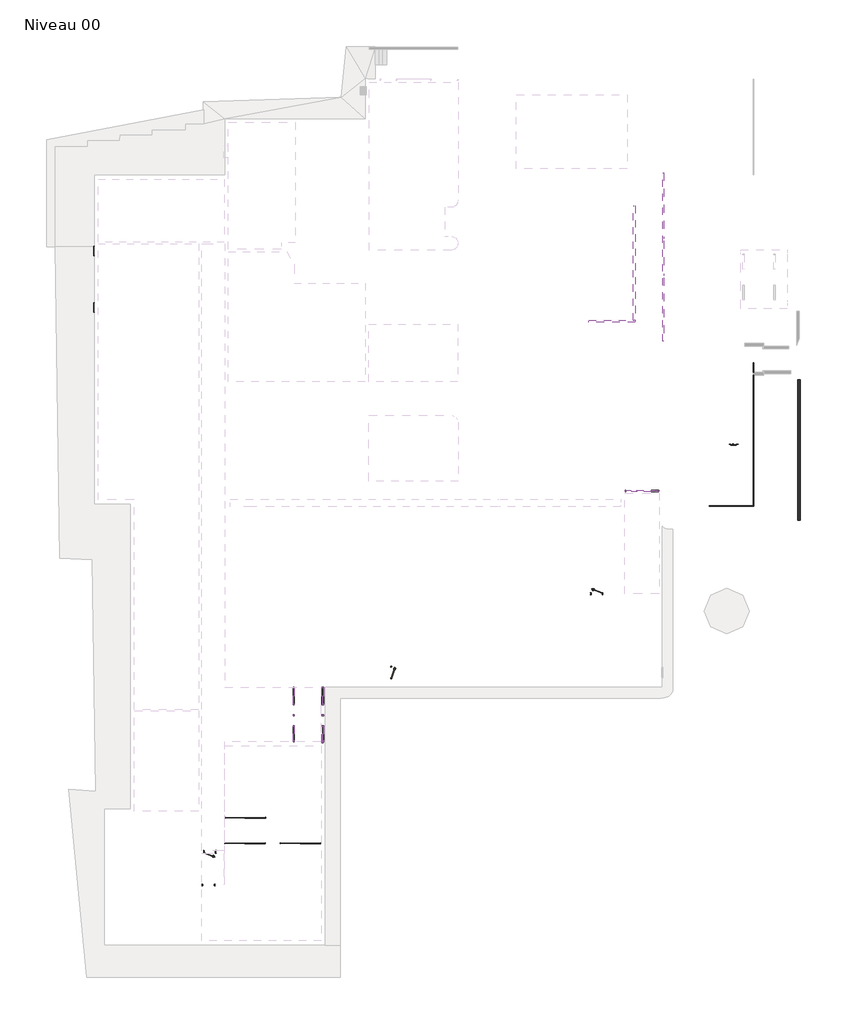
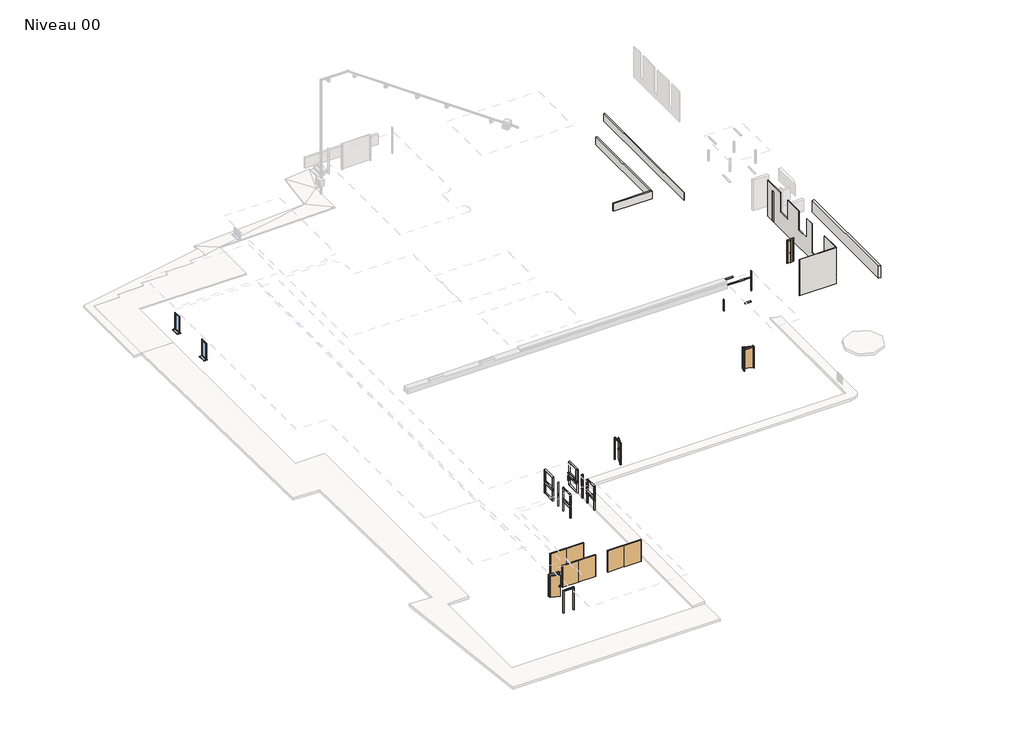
# One storey, part 1 of 2: 83 members, 8 doors, 6 walls, 2 windows.
"""IFC4 building model written with IfcOpenShell, lengths in millimetres."""

from ifc_helpers import new_model, si_unit, origin, place, context, project, spatial, faceted_brep, transform, mapped, element, save
from components import door_626e1f12, door_4948b6b3, door_c699e053, door_bd61b35e, door_848fd270, ouverture_en_rectangle_ouverture_90x210_ffd93667, meneau_rectangulaire_50_x_100mm_a95d30d4, meneau_rectangulaire_50_x_100mm_7e632c28, meneau_rectangulaire_50_x_100mm_c5873f87, meneau_rectangulaire_50_x_100mm_fcca4d56, meneau_rectangulaire_50_x_100mm_b23c1ce9, meneau_rectangulaire_50_x_100mm_d09d4065, meneau_rectangulaire_50_x_100mm_688607ec, meneau_rectangulaire_50_x_100mm_7ca75b0d, meneau_rectangulaire_50_x_100mm_3de90236, meneau_rectangulaire_50_x_100mm_5e38c685, meneau_rectangulaire_50_x_100mm_98a642bf, meneau_rectangulaire_50_x_100mm_ed043693, meneau_rectangulaire_50_x_100mm_b4c3f8e3, meneau_rectangulaire_50_x_100mm_ec18373a, meneau_rectangulaire_50_x_100mm_6acf6161, meneau_rectangulaire_50_x_100mm_27001ddf, meneau_rectangulaire_50_x_100mm_70707a87, meneau_rectangulaire_50_x_100mm_be9d7eec, meneau_rectangulaire_50_x_100mm_b5018dc8, meneau_rectangulaire_50_x_100mm_44c2bade, meneau_rectangulaire_50_x_100mm_59bd0e1b, meneau_rectangulaire_50_x_100mm_1360d4d5, meneau_rectangulaire_50_x_100mm_62168698, meneau_rectangulaire_50_x_100mm_d45ac7b1, meneau_rectangulaire_50_x_100mm_1a8e3824, meneau_rectangulaire_50_x_100mm_f6ebeedd, meneau_rectangulaire_50_x_100mm_f0ec9ac6, meneau_rectangulaire_50_x_100mm_34e0b34b, window_70_x_160cm_368b7dc1

model = new_model("IFC4")

# Units and contexts
model_context = context("Model", 3, world=origin())
ifc_project = project(units=[si_unit("LENGTHUNIT", "METRE", prefix="MILLI")], contexts=[model_context])

# Site, building, storey
site = spatial("IfcSite", under=ifc_project)
building = spatial("IfcBuilding", under=site)
storey = spatial("IfcBuildingStorey", under=building, Name="Niveau 00", Elevation=0.0)

# Doors
placement = place(None, origin())
door_shape = door_626e1f12(model_context)
element("IfcDoor", 1, ObjectType="Placard pliante : Placard pliante 42", at=placement, inside=storey, context=model_context, shape_type="MappedRepresentation", body=[
    mapped(door_shape, transform((1578.4345602, -16463.8474044, 0.0), x_axis=(-1.0, 0.0, 0.0), y_axis=(0.0, -1.0, 0.0), z_axis=(0.0, 0.0, 1.0))),
])
door_2_shape = door_4948b6b3(model_context)
element("IfcDoor", 2, ObjectType="@_Int. Simple : @_PP (0.83m x 2.04m)", at=placement, inside=storey, context=model_context, shape_type="MappedRepresentation", body=[
    mapped(door_2_shape, transform((-37468.9891749, -46774.4568753, 0.0), x_axis=(-1.0, 0.0, 0.0), y_axis=(0.0, -1.0, 0.0), z_axis=(0.0, 0.0, 1.0))),
])
door_3_shape = door_c699e053(model_context)
element("IfcDoor", 3, ObjectType="@_Int. Simple : @_PP (0.83m x 2.04m)", at=placement, inside=storey, context=model_context, shape_type="MappedRepresentation", body=[
    mapped(door_3_shape, transform((-8581.1906223, -27544.0543067, 0.0), x_axis=(1.0, 0.0, 0.0), y_axis=(0.0, 1.0, 0.0), z_axis=(0.0, 0.0, 1.0))),
])
door_4_shape = door_bd61b35e(model_context)
element("IfcDoor", 4, ObjectType="@_Int. Simple : @_PP (0.83m x 2.04m)", at=placement, inside=storey, context=model_context, shape_type="MappedRepresentation", body=[
    mapped(door_4_shape, transform((-23928.9891725, -33449.054307, 0.0), x_axis=(0.0, -1.0, 0.0), y_axis=(1.0, 0.0, 0.0), z_axis=(0.0, 0.0, 1.0))),
])
door_5_shape = door_848fd270(model_context)
element("IfcDoor", 5, ObjectType="PRT-plaard coulissant : PRT_COL_207*100", at=placement, inside=storey, context=model_context, shape_type="MappedRepresentation", body=[
    mapped(door_5_shape, transform((-34833.9891748, -44230.2078894, 0.0), x_axis=(-1.0, 0.0, 0.0), y_axis=(0.0, -1.0, 0.0), z_axis=(0.0, 0.0, 1.0))),
])
element("IfcDoor", 6, ObjectType="PRT-plaard coulissant : PRT_COL_207*100", at=placement, inside=storey, context=model_context, shape_type="MappedRepresentation", body=[
    mapped(door_5_shape, transform((-34844.5346136, -46130.9676203, 0.0), x_axis=(-1.0, 0.0, 0.0), y_axis=(0.0, -1.0, 0.0), z_axis=(0.0, 0.0, 1.0))),
])
element("IfcDoor", 7, ObjectType="PRT-plaard coulissant : PRT_COL_207*100", at=placement, inside=storey, context=model_context, shape_type="MappedRepresentation", body=[
    mapped(door_5_shape, transform((-30712.6475976, -46130.9676203, 0.0), x_axis=(-1.0, 0.0, 0.0), y_axis=(0.0, -1.0, 0.0), z_axis=(0.0, 0.0, 1.0))),
])
ouverture_en_rectangle_ouverture_90x210_shape = ouverture_en_rectangle_ouverture_90x210_ffd93667(model_context)
element("IfcDoor", 8, ObjectType="Ouverture en rectangle : Ouverture 90x210", at=placement, inside=storey, context=model_context, shape_type="MappedRepresentation", body=[
    mapped(ouverture_en_rectangle_ouverture_90x210_shape, transform((-37533.9891749, -49239.481824, 0.0), x_axis=(-1.0, 0.0, 0.0), y_axis=(0.0, -1.0, 0.0), z_axis=(0.0, 0.0, 1.0))),
])

# Members
meneau_rectangulaire_50_x_100mm_shape = meneau_rectangulaire_50_x_100mm_a95d30d4(model_context)
element("IfcMember", 9, ObjectType="Meneau rectangulaire : 50 x 100mm", at=placement, inside=storey, context=model_context, shape_type="MappedRepresentation", body=[
    mapped(meneau_rectangulaire_50_x_100mm_shape, transform((-6506.0863322, -19897.6865666, 253.3082742), x_axis=(-1.0, 0.0, 0.0), y_axis=(0.0, 1.0, 0.0), z_axis=(0.0, 0.0, -1.0))),
])
meneau_rectangulaire_50_x_100mm_2_shape = meneau_rectangulaire_50_x_100mm_7e632c28(model_context)
element("IfcMember", 10, ObjectType="Meneau rectangulaire : 50 x 100mm", at=placement, inside=storey, context=model_context, shape_type="MappedRepresentation", body=[
    mapped(meneau_rectangulaire_50_x_100mm_2_shape, transform((-5613.9891738, -19897.6865666, 2606.6416076), x_axis=(0.0, 0.0, 1.0), y_axis=(0.0, 1.0, 0.0), z_axis=(-1.0, 0.0, 0.0))),
])
meneau_rectangulaire_50_x_100mm_3_shape = meneau_rectangulaire_50_x_100mm_c5873f87(model_context)
element("IfcMember", 11, ObjectType="Meneau rectangulaire : 50 x 100mm", at=placement, inside=storey, context=model_context, shape_type="MappedRepresentation", body=[
    mapped(meneau_rectangulaire_50_x_100mm_3_shape, transform((-3943.9891777, -19897.6865666, 2581.6416076), x_axis=(1.0, 0.0, 0.0), y_axis=(0.0, 1.0, 0.0), z_axis=(0.0, 0.0, 1.0))),
])
meneau_rectangulaire_50_x_100mm_4_shape = meneau_rectangulaire_50_x_100mm_fcca4d56(model_context)
element("IfcMember", 12, ObjectType="Meneau rectangulaire : 50 x 100mm", at=placement, inside=storey, context=model_context, shape_type="MappedRepresentation", body=[
    mapped(meneau_rectangulaire_50_x_100mm_4_shape, transform((-3943.9891777, -19897.6865666, 3193.3082742), x_axis=(1.0, 0.0, 0.0), y_axis=(0.0, 1.0, 0.0), z_axis=(0.0, 0.0, 1.0))),
])
meneau_rectangulaire_50_x_100mm_5_shape = meneau_rectangulaire_50_x_100mm_b23c1ce9(model_context)
element("IfcMember", 13, ObjectType="Meneau rectangulaire : 50 x 100mm", at=placement, inside=storey, context=model_context, shape_type="MappedRepresentation", body=[
    mapped(meneau_rectangulaire_50_x_100mm_5_shape, transform((-6506.0863322, -19897.6865666, 2606.6416076), x_axis=(-1.0, 0.0, 0.0), y_axis=(0.0, 1.0, 0.0), z_axis=(0.0, 0.0, -1.0))),
])
meneau_rectangulaire_50_x_100mm_6_shape = meneau_rectangulaire_50_x_100mm_d09d4065(model_context)
element("IfcMember", 14, ObjectType="Meneau rectangulaire : 50 x 100mm", at=placement, inside=storey, context=model_context, shape_type="MappedRepresentation", body=[
    mapped(meneau_rectangulaire_50_x_100mm_6_shape, transform((-28980.0011024, -34559.0543071, 253.3082742), x_axis=(0.0, 0.0, -1.0), y_axis=(-1.0, 0.0, 0.0), z_axis=(0.0, 1.0, 0.0))),
])
element("IfcMember", 15, ObjectType="Meneau rectangulaire : 50 x 100mm", at=placement, inside=storey, context=model_context, shape_type="MappedRepresentation", body=[
    mapped(meneau_rectangulaire_50_x_100mm_6_shape, transform((-31180.0011024, -34559.0543071, 253.3082742), x_axis=(0.0, 0.0, -1.0), y_axis=(-1.0, 0.0, 0.0), z_axis=(0.0, 1.0, 0.0))),
])
meneau_rectangulaire_50_x_100mm_7_shape = meneau_rectangulaire_50_x_100mm_688607ec(model_context)
element("IfcMember", 16, ObjectType="Meneau rectangulaire : 50 x 100mm", at=placement, inside=storey, context=model_context, shape_type="MappedRepresentation", body=[
    mapped(meneau_rectangulaire_50_x_100mm_7_shape, transform((-29040.0011017, -35779.054307, 1170.0), x_axis=(0.0, 0.0, 1.0), y_axis=(-1.0, 0.0, 0.0), z_axis=(0.0, -1.0, 0.0))),
])
element("IfcMember", 17, ObjectType="Meneau rectangulaire : 50 x 100mm", at=placement, inside=storey, context=model_context, shape_type="MappedRepresentation", body=[
    mapped(meneau_rectangulaire_50_x_100mm_7_shape, transform((-28980.0011024, -35779.054307, 1423.4457948), x_axis=(0.0, 0.0, 1.0), y_axis=(-1.0, 0.0, 0.0), z_axis=(0.0, -1.0, 0.0))),
])
element("IfcMember", 18, ObjectType="Meneau rectangulaire : 50 x 100mm", at=placement, inside=storey, context=model_context, shape_type="MappedRepresentation", body=[
    mapped(meneau_rectangulaire_50_x_100mm_7_shape, transform((-28980.0011024, -35779.054307, 1213.3082742), x_axis=(0.0, 0.0, 1.0), y_axis=(-1.0, 0.0, 0.0), z_axis=(0.0, -1.0, 0.0))),
])
element("IfcMember", 19, ObjectType="Meneau rectangulaire : 50 x 100mm", at=placement, inside=storey, context=model_context, shape_type="MappedRepresentation", body=[
    mapped(meneau_rectangulaire_50_x_100mm_7_shape, transform((-29040.0011017, -35779.054307, 1170.0), x_axis=(0.0, 0.0, 1.0), y_axis=(-1.0, 0.0, 0.0), z_axis=(0.0, -1.0, 0.0))),
])
element("IfcMember", 20, ObjectType="Meneau rectangulaire : 50 x 100mm", at=placement, inside=storey, context=model_context, shape_type="MappedRepresentation", body=[
    mapped(meneau_rectangulaire_50_x_100mm_7_shape, transform((-31180.0011024, -35779.054307, 1423.4457948), x_axis=(0.0, 0.0, 1.0), y_axis=(-1.0, 0.0, 0.0), z_axis=(0.0, -1.0, 0.0))),
])
element("IfcMember", 21, ObjectType="Meneau rectangulaire : 50 x 100mm", at=placement, inside=storey, context=model_context, shape_type="MappedRepresentation", body=[
    mapped(meneau_rectangulaire_50_x_100mm_7_shape, transform((-31180.0011024, -35779.054307, 1213.3082742), x_axis=(0.0, 0.0, 1.0), y_axis=(-1.0, 0.0, 0.0), z_axis=(0.0, -1.0, 0.0))),
])
meneau_rectangulaire_50_x_100mm_8_shape = meneau_rectangulaire_50_x_100mm_7ca75b0d(model_context)
element("IfcMember", 22, ObjectType="Meneau rectangulaire : 50 x 100mm", at=placement, inside=storey, context=model_context, shape_type="MappedRepresentation", body=[
    mapped(meneau_rectangulaire_50_x_100mm_8_shape, transform((-29040.0011017, -35804.054307, 1170.0), x_axis=(0.0, -1.0, 0.0), y_axis=(-1.0, 0.0, 0.0), z_axis=(0.0, 0.0, -1.0))),
])
element("IfcMember", 23, ObjectType="Meneau rectangulaire : 50 x 100mm", at=placement, inside=storey, context=model_context, shape_type="MappedRepresentation", body=[
    mapped(meneau_rectangulaire_50_x_100mm_8_shape, transform((-28980.0011024, -35804.054307, 1213.3082742), x_axis=(0.0, -1.0, 0.0), y_axis=(-1.0, 0.0, 0.0), z_axis=(0.0, 0.0, -1.0))),
])
element("IfcMember", 24, ObjectType="Meneau rectangulaire : 50 x 100mm", at=placement, inside=storey, context=model_context, shape_type="MappedRepresentation", body=[
    mapped(meneau_rectangulaire_50_x_100mm_8_shape, transform((-28980.0011024, -37395.6844783, 1213.3082742), x_axis=(0.0, -1.0, 0.0), y_axis=(-1.0, 0.0, 0.0), z_axis=(0.0, 0.0, -1.0))),
])
element("IfcMember", 25, ObjectType="Meneau rectangulaire : 50 x 100mm", at=placement, inside=storey, context=model_context, shape_type="MappedRepresentation", body=[
    mapped(meneau_rectangulaire_50_x_100mm_8_shape, transform((-29040.0011017, -35804.054307, 1170.0), x_axis=(0.0, -1.0, 0.0), y_axis=(-1.0, 0.0, 0.0), z_axis=(0.0, 0.0, -1.0))),
])
element("IfcMember", 26, ObjectType="Meneau rectangulaire : 50 x 100mm", at=placement, inside=storey, context=model_context, shape_type="MappedRepresentation", body=[
    mapped(meneau_rectangulaire_50_x_100mm_8_shape, transform((-31180.0011024, -35804.054307, 1213.3082742), x_axis=(0.0, -1.0, 0.0), y_axis=(-1.0, 0.0, 0.0), z_axis=(0.0, 0.0, -1.0))),
])
element("IfcMember", 27, ObjectType="Meneau rectangulaire : 50 x 100mm", at=placement, inside=storey, context=model_context, shape_type="MappedRepresentation", body=[
    mapped(meneau_rectangulaire_50_x_100mm_8_shape, transform((-31180.0011024, -37395.6844783, 1213.3082742), x_axis=(0.0, -1.0, 0.0), y_axis=(-1.0, 0.0, 0.0), z_axis=(0.0, 0.0, -1.0))),
])
element("IfcMember", 28, ObjectType="Meneau rectangulaire : 50 x 100mm", at=placement, inside=storey, context=model_context, shape_type="MappedRepresentation", body=[
    mapped(meneau_rectangulaire_50_x_100mm_8_shape, transform((-29040.0011017, -36599.054307, 1170.0), x_axis=(0.0, -1.0, 0.0), y_axis=(-1.0, 0.0, 0.0), z_axis=(0.0, 0.0, -1.0))),
])
element("IfcMember", 29, ObjectType="Meneau rectangulaire : 50 x 100mm", at=placement, inside=storey, context=model_context, shape_type="MappedRepresentation", body=[
    mapped(meneau_rectangulaire_50_x_100mm_8_shape, transform((-29040.0011017, -37395.6844783, 1170.0), x_axis=(0.0, -1.0, 0.0), y_axis=(-1.0, 0.0, 0.0), z_axis=(0.0, 0.0, -1.0))),
])
element("IfcMember", 30, ObjectType="Meneau rectangulaire : 50 x 100mm", at=placement, inside=storey, context=model_context, shape_type="MappedRepresentation", body=[
    mapped(meneau_rectangulaire_50_x_100mm_8_shape, transform((-28980.0011024, -36599.054307, 1213.3082742), x_axis=(0.0, -1.0, 0.0), y_axis=(-1.0, 0.0, 0.0), z_axis=(0.0, 0.0, -1.0))),
])
element("IfcMember", 31, ObjectType="Meneau rectangulaire : 50 x 100mm", at=placement, inside=storey, context=model_context, shape_type="MappedRepresentation", body=[
    mapped(meneau_rectangulaire_50_x_100mm_8_shape, transform((-29040.0011017, -36599.054307, 1170.0), x_axis=(0.0, -1.0, 0.0), y_axis=(-1.0, 0.0, 0.0), z_axis=(0.0, 0.0, -1.0))),
])
element("IfcMember", 32, ObjectType="Meneau rectangulaire : 50 x 100mm", at=placement, inside=storey, context=model_context, shape_type="MappedRepresentation", body=[
    mapped(meneau_rectangulaire_50_x_100mm_8_shape, transform((-29040.0011017, -37395.6844783, 1170.0), x_axis=(0.0, -1.0, 0.0), y_axis=(-1.0, 0.0, 0.0), z_axis=(0.0, 0.0, -1.0))),
])
element("IfcMember", 33, ObjectType="Meneau rectangulaire : 50 x 100mm", at=placement, inside=storey, context=model_context, shape_type="MappedRepresentation", body=[
    mapped(meneau_rectangulaire_50_x_100mm_8_shape, transform((-31180.0011024, -36599.054307, 1213.3082742), x_axis=(0.0, -1.0, 0.0), y_axis=(-1.0, 0.0, 0.0), z_axis=(0.0, 0.0, -1.0))),
])
meneau_rectangulaire_50_x_100mm_9_shape = meneau_rectangulaire_50_x_100mm_3de90236(model_context)
element("IfcMember", 34, ObjectType="Meneau rectangulaire : 50 x 100mm", at=placement, inside=storey, context=model_context, shape_type="MappedRepresentation", body=[
    mapped(meneau_rectangulaire_50_x_100mm_9_shape, transform((-29040.0011017, -38645.6844783, 1170.0), x_axis=(0.0, -1.0, 0.0), y_axis=(-1.0, 0.0, 0.0), z_axis=(0.0, 0.0, -1.0))),
])
element("IfcMember", 35, ObjectType="Meneau rectangulaire : 50 x 100mm", at=placement, inside=storey, context=model_context, shape_type="MappedRepresentation", body=[
    mapped(meneau_rectangulaire_50_x_100mm_9_shape, transform((-29040.0011017, -38645.6844783, 1170.0), x_axis=(0.0, -1.0, 0.0), y_axis=(-1.0, 0.0, 0.0), z_axis=(0.0, 0.0, -1.0))),
])
meneau_rectangulaire_50_x_100mm_10_shape = meneau_rectangulaire_50_x_100mm_5e38c685(model_context)
element("IfcMember", 36, ObjectType="Meneau rectangulaire : 50 x 100mm", at=placement, inside=storey, context=model_context, shape_type="MappedRepresentation", body=[
    mapped(meneau_rectangulaire_50_x_100mm_10_shape, transform((-28980.0011024, -35779.054307, 2513.8103147), x_axis=(0.0, 0.0, 1.0), y_axis=(-1.0, 0.0, 0.0), z_axis=(0.0, -1.0, 0.0))),
])
element("IfcMember", 37, ObjectType="Meneau rectangulaire : 50 x 100mm", at=placement, inside=storey, context=model_context, shape_type="MappedRepresentation", body=[
    mapped(meneau_rectangulaire_50_x_100mm_10_shape, transform((-31180.0011024, -35779.054307, 2513.8103147), x_axis=(0.0, 0.0, 1.0), y_axis=(-1.0, 0.0, 0.0), z_axis=(0.0, -1.0, 0.0))),
])
meneau_rectangulaire_50_x_100mm_11_shape = meneau_rectangulaire_50_x_100mm_98a642bf(model_context)
element("IfcMember", 38, ObjectType="Meneau rectangulaire : 50 x 100mm", at=placement, inside=storey, context=model_context, shape_type="MappedRepresentation", body=[
    mapped(meneau_rectangulaire_50_x_100mm_11_shape, transform((-29040.0011017, -38595.6844783, 1470.0), x_axis=(0.0, 0.0, 1.0), y_axis=(-1.0, 0.0, 0.0), z_axis=(0.0, -1.0, 0.0))),
])
element("IfcMember", 39, ObjectType="Meneau rectangulaire : 50 x 100mm", at=placement, inside=storey, context=model_context, shape_type="MappedRepresentation", body=[
    mapped(meneau_rectangulaire_50_x_100mm_11_shape, transform((-29040.0011017, -38595.6844783, 1470.0), x_axis=(0.0, 0.0, 1.0), y_axis=(-1.0, 0.0, 0.0), z_axis=(0.0, -1.0, 0.0))),
])
meneau_rectangulaire_50_x_100mm_12_shape = meneau_rectangulaire_50_x_100mm_ed043693(model_context)
element("IfcMember", 40, ObjectType="Meneau rectangulaire : 50 x 100mm", at=placement, inside=storey, context=model_context, shape_type="MappedRepresentation", body=[
    mapped(meneau_rectangulaire_50_x_100mm_12_shape, transform((-29040.0011017, -37395.6844783, 1470.0), x_axis=(0.0, -1.0, 0.0), y_axis=(-1.0, 0.0, 0.0), z_axis=(0.0, 0.0, -1.0))),
])
element("IfcMember", 41, ObjectType="Meneau rectangulaire : 50 x 100mm", at=placement, inside=storey, context=model_context, shape_type="MappedRepresentation", body=[
    mapped(meneau_rectangulaire_50_x_100mm_12_shape, transform((-29040.0011017, -37395.6844783, 1470.0), x_axis=(0.0, -1.0, 0.0), y_axis=(-1.0, 0.0, 0.0), z_axis=(0.0, 0.0, -1.0))),
])
meneau_rectangulaire_50_x_100mm_13_shape = meneau_rectangulaire_50_x_100mm_b4c3f8e3(model_context)
element("IfcMember", 42, ObjectType="Meneau rectangulaire : 50 x 100mm", at=placement, inside=storey, context=model_context, shape_type="MappedRepresentation", body=[
    mapped(meneau_rectangulaire_50_x_100mm_13_shape, transform((-29040.0011017, -38645.6844783, 1470.0), x_axis=(0.0, -1.0, 0.0), y_axis=(-1.0, 0.0, 0.0), z_axis=(0.0, 0.0, -1.0))),
])
element("IfcMember", 43, ObjectType="Meneau rectangulaire : 50 x 100mm", at=placement, inside=storey, context=model_context, shape_type="MappedRepresentation", body=[
    mapped(meneau_rectangulaire_50_x_100mm_13_shape, transform((-29040.0011017, -38645.6844783, 1470.0), x_axis=(0.0, -1.0, 0.0), y_axis=(-1.0, 0.0, 0.0), z_axis=(0.0, 0.0, -1.0))),
])
element("IfcMember", 44, ObjectType="Meneau rectangulaire : 50 x 100mm", at=placement, inside=storey, context=model_context, shape_type="MappedRepresentation", body=[
    mapped(meneau_rectangulaire_50_x_100mm_12_shape, transform((-29040.0011017, -35804.054307, 1470.0), x_axis=(0.0, -1.0, 0.0), y_axis=(-1.0, 0.0, 0.0), z_axis=(0.0, 0.0, -1.0))),
])
element("IfcMember", 45, ObjectType="Meneau rectangulaire : 50 x 100mm", at=placement, inside=storey, context=model_context, shape_type="MappedRepresentation", body=[
    mapped(meneau_rectangulaire_50_x_100mm_12_shape, transform((-29040.0011017, -36599.054307, 1470.0), x_axis=(0.0, -1.0, 0.0), y_axis=(-1.0, 0.0, 0.0), z_axis=(0.0, 0.0, -1.0))),
])
element("IfcMember", 46, ObjectType="Meneau rectangulaire : 50 x 100mm", at=placement, inside=storey, context=model_context, shape_type="MappedRepresentation", body=[
    mapped(meneau_rectangulaire_50_x_100mm_12_shape, transform((-29040.0011017, -35804.054307, 1470.0), x_axis=(0.0, -1.0, 0.0), y_axis=(-1.0, 0.0, 0.0), z_axis=(0.0, 0.0, -1.0))),
])
element("IfcMember", 47, ObjectType="Meneau rectangulaire : 50 x 100mm", at=placement, inside=storey, context=model_context, shape_type="MappedRepresentation", body=[
    mapped(meneau_rectangulaire_50_x_100mm_12_shape, transform((-29040.0011017, -36599.054307, 1470.0), x_axis=(0.0, -1.0, 0.0), y_axis=(-1.0, 0.0, 0.0), z_axis=(0.0, 0.0, -1.0))),
])
meneau_rectangulaire_50_x_100mm_14_shape = meneau_rectangulaire_50_x_100mm_ec18373a(model_context)
element("IfcMember", 48, ObjectType="Meneau rectangulaire : 50 x 100mm", at=placement, inside=storey, context=model_context, shape_type="MappedRepresentation", body=[
    mapped(meneau_rectangulaire_50_x_100mm_14_shape, transform((-28980.0011024, -36599.054307, 1313.3082742), x_axis=(0.0, -1.0, 0.0), y_axis=(-1.0, 0.0, 0.0), z_axis=(0.0, 0.0, -1.0))),
])
element("IfcMember", 49, ObjectType="Meneau rectangulaire : 50 x 100mm", at=placement, inside=storey, context=model_context, shape_type="MappedRepresentation", body=[
    mapped(meneau_rectangulaire_50_x_100mm_14_shape, transform((-31180.0011024, -36599.054307, 1313.3082742), x_axis=(0.0, -1.0, 0.0), y_axis=(-1.0, 0.0, 0.0), z_axis=(0.0, 0.0, -1.0))),
])
element("IfcMember", 50, ObjectType="Meneau rectangulaire : 50 x 100mm", at=placement, inside=storey, context=model_context, shape_type="MappedRepresentation", body=[
    mapped(meneau_rectangulaire_50_x_100mm_14_shape, transform((-28980.0011024, -37395.6844783, 1313.3082742), x_axis=(0.0, -1.0, 0.0), y_axis=(-1.0, 0.0, 0.0), z_axis=(0.0, 0.0, -1.0))),
])
element("IfcMember", 51, ObjectType="Meneau rectangulaire : 50 x 100mm", at=placement, inside=storey, context=model_context, shape_type="MappedRepresentation", body=[
    mapped(meneau_rectangulaire_50_x_100mm_14_shape, transform((-28980.0011024, -35804.054307, 1313.3082742), x_axis=(0.0, -1.0, 0.0), y_axis=(-1.0, 0.0, 0.0), z_axis=(0.0, 0.0, -1.0))),
])
element("IfcMember", 52, ObjectType="Meneau rectangulaire : 50 x 100mm", at=placement, inside=storey, context=model_context, shape_type="MappedRepresentation", body=[
    mapped(meneau_rectangulaire_50_x_100mm_14_shape, transform((-31180.0011024, -37395.6844783, 1313.3082742), x_axis=(0.0, -1.0, 0.0), y_axis=(-1.0, 0.0, 0.0), z_axis=(0.0, 0.0, -1.0))),
])
element("IfcMember", 53, ObjectType="Meneau rectangulaire : 50 x 100mm", at=placement, inside=storey, context=model_context, shape_type="MappedRepresentation", body=[
    mapped(meneau_rectangulaire_50_x_100mm_14_shape, transform((-31180.0011024, -35804.054307, 1313.3082742), x_axis=(0.0, -1.0, 0.0), y_axis=(-1.0, 0.0, 0.0), z_axis=(0.0, 0.0, -1.0))),
])
meneau_rectangulaire_50_x_100mm_15_shape = meneau_rectangulaire_50_x_100mm_6acf6161(model_context)
element("IfcMember", 54, ObjectType="Meneau rectangulaire : 50 x 100mm", at=placement, inside=storey, context=model_context, shape_type="MappedRepresentation", body=[
    mapped(meneau_rectangulaire_50_x_100mm_15_shape, transform((-28980.0011024, -34509.0543071, 1423.4457948), x_axis=(0.0, 1.0, 0.0), y_axis=(-1.0, 0.0, 0.0), z_axis=(0.0, 0.0, 1.0))),
])
element("IfcMember", 55, ObjectType="Meneau rectangulaire : 50 x 100mm", at=placement, inside=storey, context=model_context, shape_type="MappedRepresentation", body=[
    mapped(meneau_rectangulaire_50_x_100mm_15_shape, transform((-31180.0011024, -34509.0543071, 1423.4457948), x_axis=(0.0, 1.0, 0.0), y_axis=(-1.0, 0.0, 0.0), z_axis=(0.0, 0.0, 1.0))),
])
meneau_rectangulaire_50_x_100mm_16_shape = meneau_rectangulaire_50_x_100mm_27001ddf(model_context)
element("IfcMember", 56, ObjectType="Meneau rectangulaire : 50 x 100mm", at=placement, inside=storey, context=model_context, shape_type="MappedRepresentation", body=[
    mapped(meneau_rectangulaire_50_x_100mm_16_shape, transform((-29040.0011017, -34509.0543071, 1470.0), x_axis=(0.0, 1.0, 0.0), y_axis=(-1.0, 0.0, 0.0), z_axis=(0.0, 0.0, 1.0))),
])
element("IfcMember", 57, ObjectType="Meneau rectangulaire : 50 x 100mm", at=placement, inside=storey, context=model_context, shape_type="MappedRepresentation", body=[
    mapped(meneau_rectangulaire_50_x_100mm_16_shape, transform((-29040.0011017, -34509.0543071, 1470.0), x_axis=(0.0, 1.0, 0.0), y_axis=(-1.0, 0.0, 0.0), z_axis=(0.0, 0.0, 1.0))),
])
meneau_rectangulaire_50_x_100mm_17_shape = meneau_rectangulaire_50_x_100mm_70707a87(model_context)
element("IfcMember", 58, ObjectType="Meneau rectangulaire : 50 x 100mm", at=placement, inside=storey, context=model_context, shape_type="MappedRepresentation", body=[
    mapped(meneau_rectangulaire_50_x_100mm_17_shape, transform((-28980.0011024, -35804.054307, 1423.4457948), x_axis=(0.0, -1.0, 0.0), y_axis=(-1.0, 0.0, 0.0), z_axis=(0.0, 0.0, -1.0))),
])
element("IfcMember", 59, ObjectType="Meneau rectangulaire : 50 x 100mm", at=placement, inside=storey, context=model_context, shape_type="MappedRepresentation", body=[
    mapped(meneau_rectangulaire_50_x_100mm_17_shape, transform((-28980.0011024, -37395.6844783, 1423.4457948), x_axis=(0.0, -1.0, 0.0), y_axis=(-1.0, 0.0, 0.0), z_axis=(0.0, 0.0, -1.0))),
])
element("IfcMember", 60, ObjectType="Meneau rectangulaire : 50 x 100mm", at=placement, inside=storey, context=model_context, shape_type="MappedRepresentation", body=[
    mapped(meneau_rectangulaire_50_x_100mm_17_shape, transform((-31180.0011024, -35804.054307, 1423.4457948), x_axis=(0.0, -1.0, 0.0), y_axis=(-1.0, 0.0, 0.0), z_axis=(0.0, 0.0, -1.0))),
])
element("IfcMember", 61, ObjectType="Meneau rectangulaire : 50 x 100mm", at=placement, inside=storey, context=model_context, shape_type="MappedRepresentation", body=[
    mapped(meneau_rectangulaire_50_x_100mm_17_shape, transform((-31180.0011024, -37395.6844783, 1423.4457948), x_axis=(0.0, -1.0, 0.0), y_axis=(-1.0, 0.0, 0.0), z_axis=(0.0, 0.0, -1.0))),
])
element("IfcMember", 62, ObjectType="Meneau rectangulaire : 50 x 100mm", at=placement, inside=storey, context=model_context, shape_type="MappedRepresentation", body=[
    mapped(meneau_rectangulaire_50_x_100mm_17_shape, transform((-28980.0011024, -36599.054307, 1423.4457948), x_axis=(0.0, -1.0, 0.0), y_axis=(-1.0, 0.0, 0.0), z_axis=(0.0, 0.0, -1.0))),
])
element("IfcMember", 63, ObjectType="Meneau rectangulaire : 50 x 100mm", at=placement, inside=storey, context=model_context, shape_type="MappedRepresentation", body=[
    mapped(meneau_rectangulaire_50_x_100mm_17_shape, transform((-31180.0011024, -36599.054307, 1423.4457948), x_axis=(0.0, -1.0, 0.0), y_axis=(-1.0, 0.0, 0.0), z_axis=(0.0, 0.0, -1.0))),
])
meneau_rectangulaire_50_x_100mm_18_shape = meneau_rectangulaire_50_x_100mm_be9d7eec(model_context)
element("IfcMember", 64, ObjectType="Meneau rectangulaire : 50 x 100mm", at=placement, inside=storey, context=model_context, shape_type="MappedRepresentation", body=[
    mapped(meneau_rectangulaire_50_x_100mm_18_shape, transform((-28980.0011024, -34509.0543071, 2463.8103147), x_axis=(0.0, 1.0, 0.0), y_axis=(-1.0, 0.0, 0.0), z_axis=(0.0, 0.0, 1.0))),
])
element("IfcMember", 65, ObjectType="Meneau rectangulaire : 50 x 100mm", at=placement, inside=storey, context=model_context, shape_type="MappedRepresentation", body=[
    mapped(meneau_rectangulaire_50_x_100mm_18_shape, transform((-31180.0011024, -34509.0543071, 2463.8103147), x_axis=(0.0, 1.0, 0.0), y_axis=(-1.0, 0.0, 0.0), z_axis=(0.0, 0.0, 1.0))),
])
meneau_rectangulaire_50_x_100mm_19_shape = meneau_rectangulaire_50_x_100mm_b5018dc8(model_context)
element("IfcMember", 66, ObjectType="Meneau rectangulaire : 50 x 100mm", at=placement, inside=storey, context=model_context, shape_type="MappedRepresentation", body=[
    mapped(meneau_rectangulaire_50_x_100mm_19_shape, transform((-28980.0011024, -38559.0543071, 1423.4457948), x_axis=(0.0, -1.0, 0.0), y_axis=(-1.0, 0.0, 0.0), z_axis=(0.0, 0.0, -1.0))),
])
element("IfcMember", 67, ObjectType="Meneau rectangulaire : 50 x 100mm", at=placement, inside=storey, context=model_context, shape_type="MappedRepresentation", body=[
    mapped(meneau_rectangulaire_50_x_100mm_19_shape, transform((-31180.0011024, -38559.0543071, 1423.4457948), x_axis=(0.0, -1.0, 0.0), y_axis=(-1.0, 0.0, 0.0), z_axis=(0.0, 0.0, -1.0))),
])
meneau_rectangulaire_50_x_100mm_20_shape = meneau_rectangulaire_50_x_100mm_44c2bade(model_context)
element("IfcMember", 68, ObjectType="Meneau rectangulaire : 50 x 100mm", at=placement, inside=storey, context=model_context, shape_type="MappedRepresentation", body=[
    mapped(meneau_rectangulaire_50_x_100mm_20_shape, transform((-29040.0011017, -34509.0543071, 1170.0), x_axis=(0.0, 1.0, 0.0), y_axis=(-1.0, 0.0, 0.0), z_axis=(0.0, 0.0, 1.0))),
])
element("IfcMember", 69, ObjectType="Meneau rectangulaire : 50 x 100mm", at=placement, inside=storey, context=model_context, shape_type="MappedRepresentation", body=[
    mapped(meneau_rectangulaire_50_x_100mm_20_shape, transform((-29040.0011017, -34509.0543071, 1170.0), x_axis=(0.0, 1.0, 0.0), y_axis=(-1.0, 0.0, 0.0), z_axis=(0.0, 0.0, 1.0))),
])
meneau_rectangulaire_50_x_100mm_21_shape = meneau_rectangulaire_50_x_100mm_59bd0e1b(model_context)
element("IfcMember", 70, ObjectType="Meneau rectangulaire : 50 x 100mm", at=placement, inside=storey, context=model_context, shape_type="MappedRepresentation", body=[
    mapped(meneau_rectangulaire_50_x_100mm_21_shape, transform((-28980.0011024, -36599.054307, 253.3082742), x_axis=(0.0, -1.0, 0.0), y_axis=(-1.0, 0.0, 0.0), z_axis=(0.0, 0.0, -1.0))),
])
element("IfcMember", 71, ObjectType="Meneau rectangulaire : 50 x 100mm", at=placement, inside=storey, context=model_context, shape_type="MappedRepresentation", body=[
    mapped(meneau_rectangulaire_50_x_100mm_21_shape, transform((-31180.0011024, -36599.054307, 253.3082742), x_axis=(0.0, -1.0, 0.0), y_axis=(-1.0, 0.0, 0.0), z_axis=(0.0, 0.0, -1.0))),
])
element("IfcMember", 72, ObjectType="Meneau rectangulaire : 50 x 100mm", at=placement, inside=storey, context=model_context, shape_type="MappedRepresentation", body=[
    mapped(meneau_rectangulaire_50_x_100mm_21_shape, transform((-28980.0011024, -37395.6844783, 253.3082742), x_axis=(0.0, -1.0, 0.0), y_axis=(-1.0, 0.0, 0.0), z_axis=(0.0, 0.0, -1.0))),
])
element("IfcMember", 73, ObjectType="Meneau rectangulaire : 50 x 100mm", at=placement, inside=storey, context=model_context, shape_type="MappedRepresentation", body=[
    mapped(meneau_rectangulaire_50_x_100mm_21_shape, transform((-31180.0011024, -37395.6844783, 253.3082742), x_axis=(0.0, -1.0, 0.0), y_axis=(-1.0, 0.0, 0.0), z_axis=(0.0, 0.0, -1.0))),
])
meneau_rectangulaire_50_x_100mm_22_shape = meneau_rectangulaire_50_x_100mm_1360d4d5(model_context)
element("IfcMember", 74, ObjectType="Meneau rectangulaire : 50 x 100mm", at=placement, inside=storey, context=model_context, shape_type="MappedRepresentation", body=[
    mapped(meneau_rectangulaire_50_x_100mm_22_shape, transform((-28980.0011024, -38559.0543071, 253.3082742), x_axis=(0.0, -1.0, 0.0), y_axis=(-1.0, 0.0, 0.0), z_axis=(0.0, 0.0, -1.0))),
])
element("IfcMember", 75, ObjectType="Meneau rectangulaire : 50 x 100mm", at=placement, inside=storey, context=model_context, shape_type="MappedRepresentation", body=[
    mapped(meneau_rectangulaire_50_x_100mm_22_shape, transform((-31180.0011024, -38559.0543071, 253.3082742), x_axis=(0.0, -1.0, 0.0), y_axis=(-1.0, 0.0, 0.0), z_axis=(0.0, 0.0, -1.0))),
])
element("IfcMember", 76, ObjectType="Meneau rectangulaire : 50 x 100mm", at=placement, inside=storey, context=model_context, shape_type="MappedRepresentation", body=[
    mapped(meneau_rectangulaire_50_x_100mm_9_shape, transform((-28980.0011024, -38559.0543071, 1213.3082742), x_axis=(0.0, -1.0, 0.0), y_axis=(-1.0, 0.0, 0.0), z_axis=(0.0, 0.0, -1.0))),
])
element("IfcMember", 77, ObjectType="Meneau rectangulaire : 50 x 100mm", at=placement, inside=storey, context=model_context, shape_type="MappedRepresentation", body=[
    mapped(meneau_rectangulaire_50_x_100mm_9_shape, transform((-31180.0011024, -38559.0543071, 1213.3082742), x_axis=(0.0, -1.0, 0.0), y_axis=(-1.0, 0.0, 0.0), z_axis=(0.0, 0.0, -1.0))),
])
element("IfcMember", 78, ObjectType="Meneau rectangulaire : 50 x 100mm", at=placement, inside=storey, context=model_context, shape_type="MappedRepresentation", body=[
    mapped(meneau_rectangulaire_50_x_100mm_21_shape, transform((-28980.0011024, -35804.054307, 253.3082742), x_axis=(0.0, -1.0, 0.0), y_axis=(-1.0, 0.0, 0.0), z_axis=(0.0, 0.0, -1.0))),
])
element("IfcMember", 79, ObjectType="Meneau rectangulaire : 50 x 100mm", at=placement, inside=storey, context=model_context, shape_type="MappedRepresentation", body=[
    mapped(meneau_rectangulaire_50_x_100mm_21_shape, transform((-31180.0011024, -35804.054307, 253.3082742), x_axis=(0.0, -1.0, 0.0), y_axis=(-1.0, 0.0, 0.0), z_axis=(0.0, 0.0, -1.0))),
])
element("IfcMember", 80, ObjectType="Meneau rectangulaire : 50 x 100mm", at=placement, inside=storey, context=model_context, shape_type="MappedRepresentation", body=[
    mapped(meneau_rectangulaire_50_x_100mm_22_shape, transform((-28980.0011024, -34509.0543071, 1213.3082742), x_axis=(0.0, 1.0, 0.0), y_axis=(-1.0, 0.0, 0.0), z_axis=(0.0, 0.0, 1.0))),
])
element("IfcMember", 81, ObjectType="Meneau rectangulaire : 50 x 100mm", at=placement, inside=storey, context=model_context, shape_type="MappedRepresentation", body=[
    mapped(meneau_rectangulaire_50_x_100mm_22_shape, transform((-31180.0011024, -34509.0543071, 1213.3082742), x_axis=(0.0, 1.0, 0.0), y_axis=(-1.0, 0.0, 0.0), z_axis=(0.0, 0.0, 1.0))),
])
meneau_rectangulaire_50_x_100mm_23_shape = meneau_rectangulaire_50_x_100mm_62168698(model_context)
element("IfcMember", 82, ObjectType="Meneau rectangulaire : 50 x 100mm", at=placement, inside=storey, context=model_context, shape_type="MappedRepresentation", body=[
    mapped(meneau_rectangulaire_50_x_100mm_23_shape, transform((-28980.0011024, -38509.0543071, 1423.4457948), x_axis=(0.0, 0.0, 1.0), y_axis=(-1.0, 0.0, 0.0), z_axis=(0.0, -1.0, 0.0))),
])
element("IfcMember", 83, ObjectType="Meneau rectangulaire : 50 x 100mm", at=placement, inside=storey, context=model_context, shape_type="MappedRepresentation", body=[
    mapped(meneau_rectangulaire_50_x_100mm_23_shape, transform((-28980.0011024, -38509.0543071, 1213.3082742), x_axis=(0.0, 0.0, 1.0), y_axis=(-1.0, 0.0, 0.0), z_axis=(0.0, -1.0, 0.0))),
])
element("IfcMember", 84, ObjectType="Meneau rectangulaire : 50 x 100mm", at=placement, inside=storey, context=model_context, shape_type="MappedRepresentation", body=[
    mapped(meneau_rectangulaire_50_x_100mm_23_shape, transform((-31180.0011024, -38509.0543071, 1423.4457948), x_axis=(0.0, 0.0, 1.0), y_axis=(-1.0, 0.0, 0.0), z_axis=(0.0, -1.0, 0.0))),
])
element("IfcMember", 85, ObjectType="Meneau rectangulaire : 50 x 100mm", at=placement, inside=storey, context=model_context, shape_type="MappedRepresentation", body=[
    mapped(meneau_rectangulaire_50_x_100mm_23_shape, transform((-31180.0011024, -38509.0543071, 1213.3082742), x_axis=(0.0, 0.0, 1.0), y_axis=(-1.0, 0.0, 0.0), z_axis=(0.0, -1.0, 0.0))),
])
meneau_rectangulaire_50_x_100mm_24_shape = meneau_rectangulaire_50_x_100mm_d45ac7b1(model_context)
element("IfcMember", 86, ObjectType="Meneau rectangulaire : 50 x 100mm", at=placement, inside=storey, context=model_context, shape_type="MappedRepresentation", body=[
    mapped(meneau_rectangulaire_50_x_100mm_24_shape, transform((-28980.0011024, -38509.0543071, 2513.8103147), x_axis=(0.0, 0.0, 1.0), y_axis=(-1.0, 0.0, 0.0), z_axis=(0.0, -1.0, 0.0))),
])
element("IfcMember", 87, ObjectType="Meneau rectangulaire : 50 x 100mm", at=placement, inside=storey, context=model_context, shape_type="MappedRepresentation", body=[
    mapped(meneau_rectangulaire_50_x_100mm_24_shape, transform((-31180.0011024, -38509.0543071, 2513.8103147), x_axis=(0.0, 0.0, 1.0), y_axis=(-1.0, 0.0, 0.0), z_axis=(0.0, -1.0, 0.0))),
])
meneau_rectangulaire_50_x_100mm_25_shape = meneau_rectangulaire_50_x_100mm_1a8e3824(model_context)
element("IfcMember", 88, ObjectType="Meneau rectangulaire : 50 x 100mm", at=placement, inside=storey, context=model_context, shape_type="MappedRepresentation", body=[
    mapped(meneau_rectangulaire_50_x_100mm_25_shape, transform((-3993.9891777, -19897.6865666, 253.3082742), x_axis=(0.0, 0.0, -1.0), y_axis=(0.0, 1.0, 0.0), z_axis=(1.0, 0.0, 0.0))),
])
meneau_rectangulaire_50_x_100mm_26_shape = meneau_rectangulaire_50_x_100mm_f6ebeedd(model_context)
element("IfcMember", 89, ObjectType="Meneau rectangulaire : 50 x 100mm", at=placement, inside=storey, context=model_context, shape_type="MappedRepresentation", body=[
    mapped(meneau_rectangulaire_50_x_100mm_26_shape, transform((-4548.9186636, -19897.6865666, 2606.6416076), x_axis=(0.0, 0.0, 1.0), y_axis=(0.0, 1.0, 0.0), z_axis=(-1.0, 0.0, 0.0))),
])
meneau_rectangulaire_50_x_100mm_27_shape = meneau_rectangulaire_50_x_100mm_f0ec9ac6(model_context)
element("IfcMember", 90, ObjectType="Meneau rectangulaire : 50 x 100mm", at=placement, inside=storey, context=model_context, shape_type="MappedRepresentation", body=[
    mapped(meneau_rectangulaire_50_x_100mm_27_shape, transform((-6456.0863322, -19897.6865666, 3243.3082742), x_axis=(0.0, 0.0, 1.0), y_axis=(0.0, 1.0, 0.0), z_axis=(-1.0, 0.0, 0.0))),
])
meneau_rectangulaire_50_x_100mm_28_shape = meneau_rectangulaire_50_x_100mm_34e0b34b(model_context)
element("IfcMember", 91, ObjectType="Meneau rectangulaire : 50 x 100mm", at=placement, inside=storey, context=model_context, shape_type="MappedRepresentation", body=[
    mapped(meneau_rectangulaire_50_x_100mm_28_shape, transform((-6456.0863322, -19897.6865666, 2606.6416076), x_axis=(0.0, 0.0, 1.0), y_axis=(0.0, 1.0, 0.0), z_axis=(-1.0, 0.0, 0.0))),
])

# Walls
element("IfcWall", 92, ObjectType="Mur EXE 200- Hach", at=placement, inside=storey, context=model_context, shape_type="Brep", body=[
    faceted_brep([(6344.2383271, -11616.7908534, 213.3082742), (6344.2383271, -22063.5552573, 213.3082742), (6344.2383271, -22063.5552573, 1349.0273663), (6344.2383271, -11616.7908534, 1349.0273663), (6344.2383271, -11616.7908534, 258.5326836), (6544.2383271, -22074.3330899, 213.3082742), (6544.2383271, -11602.541515, 213.3082742), (6544.2383271, -11602.541515, 258.5326836), (6544.2383271, -11602.541515, 1349.0273663), (6544.2383271, -22074.3330899, 1349.0273663)], [[[0, 1, 2, 3, 4]], [[5, 6, 7, 8, 9]], [[1, 0, 6, 5]], [[3, 2, 9, 8]], [[3, 8, 7, 6, 0, 4]], [[2, 1, 5, 9]]]),
])
element("IfcWall", 93, ObjectType="Mur EXE 40- Hach", at=placement, inside=storey, context=model_context, shape_type="Brep", body=[
    faceted_brep([(3057.4682686, -10346.6335398, 210.0), (3057.4682686, -21006.2530701, 210.0), (3057.4682686, -21006.2530701, 893.3082742), (3057.4682686, -21006.2530701, 3673.0838649), (3057.4682686, -19245.4746569, 3673.0838649), (3057.4682686, -19245.4746569, 3193.3082742), (3057.4682686, -19245.4746569, 993.3082742), (3057.4682686, -19245.4746569, 948.0838649), (3057.4682686, -17245.4746569, 948.0838649), (3057.4682686, -17245.4746569, 993.3082742), (3057.4682686, -17245.4746569, 3193.3082742), (3057.4682686, -17245.4746569, 3673.0838649), (3057.4682686, -16428.7776675, 3673.0838649), (3057.4682686, -16428.7776675, 3143.3082742), (3057.4682686, -16428.7776675, 1893.3082742), (3057.4682686, -16428.7776675, 1848.0838649), (3057.4682686, -15229.0512733, 1848.0838649), (3057.4682686, -15229.0512733, 1893.3082742), (3057.4682686, -15228.8474044, 1893.3082742), (3057.4682686, -15228.8474044, 3143.3082742), (3057.4682686, -15229.0512733, 3143.3082742), (3057.4682686, -15229.0512733, 3673.0838649), (3057.4682686, -13482.9158895, 3673.0838649), (3057.4682686, -13482.9158895, 3143.3082742), (3057.4682686, -13482.9158895, 1893.3082742), (3057.4682686, -13482.9158895, 1848.0838649), (3057.4682686, -12282.9158895, 1848.0838649), (3057.4682686, -12282.9158895, 1893.3082742), (3057.4682686, -12282.9158895, 3143.3082742), (3057.4682686, -12282.9158895, 3673.0838649), (3057.4682686, -10346.6335398, 3673.0838649), (3057.4682686, -10346.6335398, 893.3082742), (3057.4682686, -11059.4963923, 213.3082742), (3057.4682686, -11059.4963923, 2993.3082742), (3057.4682686, -11059.4963923, 3098.0838649), (3057.4682686, -11159.4963923, 3098.0838649), (3057.4682686, -11259.4963923, 3098.0838649), (3057.4682686, -11259.4963923, 213.3082742), (3097.4682686, -21006.2530701, 210.0), (3097.4682686, -10346.6335398, 210.0), (3097.4682686, -10346.6335398, 3673.0838649), (3097.4682686, -12282.9158895, 3673.0838649), (3097.4682686, -12282.9158895, 3143.3082742), (3097.4682686, -12282.9158895, 1893.3082742), (3097.4682686, -12282.9158895, 1848.0838649), (3097.4682686, -13482.9158895, 1848.0838649), (3097.4682686, -13482.9158895, 1893.3082742), (3097.4682686, -13482.9158895, 3143.3082742), (3097.4682686, -13482.9158895, 3673.0838649), (3097.4682686, -15229.0512733, 3673.0838649), (3097.4682686, -15229.0512733, 3143.3082742), (3097.4682686, -15228.8474044, 3143.3082742), (3097.4682686, -15228.8474044, 1893.3082742), (3097.4682686, -15229.0512733, 1893.3082742), (3097.4682686, -15229.0512733, 1848.0838649), (3097.4682686, -16428.7776675, 1848.0838649), (3097.4682686, -16428.7776675, 1893.3082742), (3097.4682686, -16428.7776675, 3143.3082742), (3097.4682686, -16428.7776675, 3673.0838649), (3097.4682686, -17245.4746569, 3673.0838649), (3097.4682686, -17245.4746569, 3193.3082742), (3097.4682686, -17245.4746569, 993.3082742), (3097.4682686, -17245.4746569, 948.0838649), (3097.4682686, -19245.4746569, 948.0838649), (3097.4682686, -19245.4746569, 993.3082742), (3097.4682686, -19245.4746569, 3193.3082742), (3097.4682686, -19245.4746569, 3673.0838649), (3097.4682686, -21006.2530701, 3673.0838649), (3097.4682686, -21006.2530701, 1287.5093158), (3097.4682686, -21006.2530701, 1087.5093158), (3097.4682686, -11059.4963923, 3098.0838649), (3097.4682686, -11059.4963923, 213.3082742), (3097.4682686, -11259.4963923, 213.3082742), (3097.4682686, -11259.4963923, 3098.0838649), (3097.4682686, -11159.4963923, 3098.0838649)], [[[0, 1, 2, 3, 4, 5, 6, 7, 8, 9, 10, 11, 12, 13, 14, 15, 16, 17, 18, 19, 20, 21, 22, 23, 24, 25, 26, 27, 28, 29, 30, 31], [32, 33, 34, 35, 36, 37]], [[38, 39, 40, 41, 42, 43, 44, 45, 46, 47, 48, 49, 50, 51, 52, 53, 54, 55, 56, 57, 58, 59, 60, 61, 62, 63, 64, 65, 66, 67, 68, 69], [70, 71, 72, 73, 74]], [[1, 0, 39, 38]], [[3, 2, 1, 38, 69, 68, 67]], [[4, 3, 67, 66]], [[0, 31, 30, 40, 39]], [[4, 66, 65, 64, 63, 7, 6, 5]], [[8, 7, 63, 62]], [[8, 62, 61, 60, 59, 11, 10, 9]], [[12, 11, 59, 58]], [[12, 58, 57, 56, 55, 15, 14, 13]], [[16, 15, 55, 54]], [[16, 54, 53, 17]], [[49, 21, 20, 50]], [[22, 21, 49, 48]], [[22, 48, 47, 46, 45, 25, 24, 23]], [[26, 25, 45, 44]], [[26, 44, 43, 42, 41, 29, 28, 27]], [[30, 29, 41, 40]], [[19, 51, 50, 20]], [[51, 19, 18, 52]], [[52, 18, 17, 53]], [[70, 34, 33, 32, 71]], [[36, 73, 72, 37]], [[71, 32, 37, 72]], [[34, 70, 74, 73, 36, 35]]]),
])
element("IfcWall", 94, ObjectType="Mur EXE 40- Hach", at=placement, inside=storey, context=model_context, shape_type="Brep", body=[
    faceted_brep([(3097.4682686, -21006.2530701, 210.0), (-226.5797272, -21006.2530701, 210.0), (-226.5797272, -21006.2530701, 3673.0838649), (3097.4682686, -21006.2530701, 3673.0838649), (3097.4682686, -21006.2530701, 1287.5093158), (3087.468269, -21006.2530701, 1287.5505949), (3087.468269, -21006.2530701, 1087.5505949), (3097.4682686, -21006.2530701, 1087.5093158), (-226.5797272, -21046.2530701, 210.0), (3097.4682686, -21046.2530701, 210.0), (3097.4682686, -21046.2530701, 1091.7460233), (3087.468269, -21046.2530701, 1093.3082742), (3087.468269, -21046.2530701, 1293.3082742), (3097.4682686, -21046.2530701, 1291.7460233), (3097.4682686, -21046.2530701, 3673.0838649), (-226.5797272, -21046.2530701, 3673.0838649), (3097.4682686, -21038.0071672, 1292.0800635), (3097.4682686, -21038.0071672, 1092.0800635)], [[[0, 1, 2, 3, 4, 5, 6, 7]], [[8, 9, 10, 11, 12, 13, 14, 15]], [[1, 0, 9, 8]], [[2, 1, 8, 15]], [[3, 2, 15, 14]], [[3, 14, 13, 16, 4]], [[9, 0, 7, 17, 10]], [[5, 12, 11, 6]], [[16, 12, 5, 4]], [[12, 16, 13]], [[6, 11, 17, 7]], [[17, 11, 10]]]),
])
element("IfcWall", 95, ObjectType="@_Générique - Int. 70 mm", at=placement, inside=storey, context=model_context, shape_type="Brep", body=[
    faceted_brep([(-3693.9891754, 3820.8848607, 3150.0), (-3693.9891754, -8759.0543175, 3150.0), (-3693.9891754, -8759.0543175, 3871.8727639), (-3693.9891754, 3820.8848607, 3871.8727639), (-3623.9891754, 3820.8848607, 3150.0), (-3623.9891754, 3820.8848607, 3871.8727639), (-3623.9891754, -8759.0543175, 3871.8727639), (-3623.9891754, -8759.0543175, 3150.0), (-3623.9891754, -4000.6566675, 3150.0), (-3623.9891754, -3700.6566667, 3150.0), (-3623.9891754, -1250.6566666, 3150.0), (-3623.9891754, -950.6566667, 3150.0)], [[[0, 1, 2, 3]], [[4, 5, 6, 7, 8, 9, 10, 11]], [[1, 0, 4, 11, 10, 9, 8, 7]], [[0, 3, 5, 4]], [[2, 1, 7, 6]], [[3, 2, 6, 5]]]),
])
element("IfcWall", 96, ObjectType="Ext. Voile BA 150", at=placement, inside=storey, context=model_context, shape_type="Brep", body=[
    faceted_brep([(-5882.5317317, 1332.9293911, 3150.0), (-5882.5317317, -7179.1151395, 3150.0), (-5882.5317317, -7179.1151395, 3871.8727639), (-5882.5317317, 1332.9293911, 3871.8727639), (-5732.5317317, 1332.9293911, 3150.0), (-5732.5317317, 1332.9293911, 3871.8727639), (-5732.5317317, -7179.1151395, 3871.8727639), (-5732.5317317, -7179.1151395, 3870.0), (-5732.5317317, -7179.1151395, 3150.0)], [[[0, 1, 2, 3]], [[4, 5, 6, 7, 8]], [[1, 0, 4, 8]], [[0, 3, 5, 4]], [[2, 1, 8, 7, 6]], [[3, 2, 6, 5]]]),
])
element("IfcWall", 97, ObjectType="Ext. Voile BA 150", at=placement, inside=storey, context=model_context, shape_type="Brep", body=[
    faceted_brep([(-5732.5317317, -7179.1151395, 3150.0), (-5882.5317317, -7179.1151395, 3150.0), (-9213.9891683, -7179.1151395, 3150.0), (-9213.9891683, -7179.1151395, 3870.0), (-5732.5317317, -7179.1151395, 3870.0), (-5732.5317317, -7329.1151395, 3150.0), (-5732.5317317, -7329.1151395, 3870.0), (-9213.9891683, -7329.1151395, 3870.0), (-9213.9891683, -7329.1151395, 3150.0)], [[[0, 1, 2, 3, 4]], [[5, 6, 7, 8]], [[2, 1, 0, 5, 8]], [[4, 3, 7, 6]], [[0, 4, 6, 5]], [[3, 2, 8, 7]]]),
])

# Windows
window_70_x_160cm_shape = window_70_x_160cm_368b7dc1(model_context)
element("IfcWindow", 98, ObjectType="Fenêtre type 1 : 70 x 160cm", at=placement, inside=storey, context=model_context, shape_type="MappedRepresentation", body=[
    mapped(window_70_x_160cm_shape, transform((-45914.2374821, -2013.5, 410.0), x_axis=(0.0, -1.0, 0.0), y_axis=(1.0, 0.0, 0.0), z_axis=(0.0, 0.0, 1.0))),
])
element("IfcWindow", 99, ObjectType="Fenêtre type 1 : 70 x 160cm", at=placement, inside=storey, context=model_context, shape_type="MappedRepresentation", body=[
    mapped(window_70_x_160cm_shape, transform((-45914.2374821, -6230.0987101, 410.0), x_axis=(0.0, -1.0, 0.0), y_axis=(1.0, 0.0, 0.0), z_axis=(0.0, 0.0, 1.0))),
])

save(model, "model.ifc")
